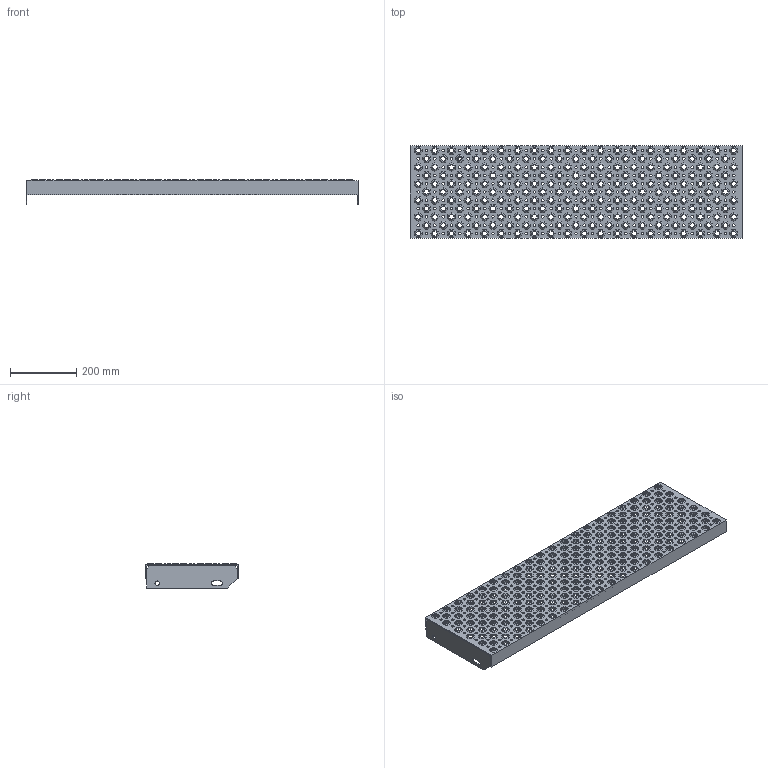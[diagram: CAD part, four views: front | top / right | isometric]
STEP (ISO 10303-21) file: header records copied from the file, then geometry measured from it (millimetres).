
FILE_DESCRIPTION(('Open CASCADE Model'),'2;1');
FILE_NAME('Open CASCADE Shape Model','2020-06-30T13:02:46',('Author'),( 'Open CASCADE'),'Open CASCADE STEP processor 7.2','Open CASCADE 7.2' ,'Unknown');
FILE_SCHEMA(('AUTOMOTIVE_DESIGN { 1 0 10303 214 1 1 1 1 }'));
Length unit declared in the file: millimetre
Products named in the file (9043): Open CASCADE STEP translator 7.2 1; Open CASCADE STEP translator 7.2 2; Open CASCADE STEP translator 7.2 3; Open CASCADE STEP translator 7.2 3.1; Open CASCADE STEP translator 7.2 3.2; Open CASCADE STEP translator 7.2 3.3; Open CASCADE STEP translator 7.2 3.4; Open CASCADE STEP translator 7.2 3.5; Open CASCADE STEP translator 7.2 3.6; Open CASCADE STEP translator 7.2 3.7; Open CASCADE STEP translator 7.2 3.8; Open CASCADE STEP translator 7.2 3.9; Open CASCADE STEP translator 7.2 3.10; Open CASCADE STEP translator 7.2 3.11; Open CASCADE STEP translator 7.2 3.12; Open CASCADE STEP translator 7.2 3.13; Open CASCADE STEP translator 7.2 3.14; Open CASCADE STEP translator 7.2 3.15; Open CASCADE STEP translator 7.2 3.16; Open CASCADE STEP translator 7.2 3.17; Open CASCADE STEP translator 7.2 3.18; Open CASCADE STEP translator 7.2 3.19; Open CASCADE STEP translator 7.2 3.20; Open CASCADE STEP translator 7.2 3.21; Open CASCADE STEP translator 7.2 3.22; Open CASCADE STEP translator 7.2 3.23; Open CASCADE STEP translator 7.2 3.24; Open CASCADE STEP translator 7.2 3.25; Open CASCADE STEP translator 7.2 3.26; Open CASCADE STEP translator 7.2 3.27; Open CASCADE STEP translator 7.2 3.28; Open CASCADE STEP translator 7.2 3.29; Open CASCADE STEP translator 7.2 3.30; Open CASCADE STEP translator 7.2 3.31; Open CASCADE STEP translator 7.2 3.32; Open CASCADE STEP translator 7.2 3.33; Open CASCADE STEP translator 7.2 3.34; Open CASCADE STEP translator 7.2 3.35; Open CASCADE STEP translator 7.2 3.36; Open CASCADE STEP translator 7.2 3.37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
Assembly tree (9040 placements, depth 2):
  Open CASCADE STEP translator 7.2 1
  Open CASCADE STEP translator 7.2 2
  Open CASCADE STEP translator 7.2 3
    Open CASCADE STEP translator 7.2 3.1
    Open CASCADE STEP translator 7.2 3.2
    Open CASCADE STEP translator 7.2 3.3
    Open CASCADE STEP translator 7.2 3.4
    Open CASCADE STEP translator 7.2 3.5
    Open CASCADE STEP translator 7.2 3.6
    Open CASCADE STEP translator 7.2 3.7
    Open CASCADE STEP translator 7.2 3.8
    Open CASCADE STEP translator 7.2 3.9
    Open CASCADE STEP translator 7.2 3.10
    Open CASCADE STEP translator 7.2 3.11
    Open CASCADE STEP translator 7.2 3.12
    Open CASCADE STEP translator 7.2 3.13
    Open CASCADE STEP translator 7.2 3.14
    Open CASCADE STEP translator 7.2 3.15
    Open CASCADE STEP translator 7.2 3.16
    Open CASCADE STEP translator 7.2 3.17
    Open CASCADE STEP translator 7.2 3.18
    Open CASCADE STEP translator 7.2 3.19
    Open CASCADE STEP translator 7.2 3.20
    Open CASCADE STEP translator 7.2 3.21
    Open CASCADE STEP translator 7.2 3.22
    Open CASCADE STEP translator 7.2 3.23
    Open CASCADE STEP translator 7.2 3.24
    Open CASCADE STEP translator 7.2 3.25
    Open CASCADE STEP translator 7.2 3.26
    Open CASCADE STEP translator 7.2 3.27
    Open CASCADE STEP translator 7.2 3.28
    Open CASCADE STEP translator 7.2 3.29
    Open CASCADE STEP translator 7.2 3.30
    Open CASCADE STEP translator 7.2 3.31
    Open CASCADE STEP translator 7.2 3.32
    Open CASCADE STEP translator 7.2 3.33
    Open CASCADE STEP translator 7.2 3.34
    Open CASCADE STEP translator 7.2 3.35
    Open CASCADE STEP translator 7.2 3.36
    Open CASCADE STEP translator 7.2 3.37
    Open CASCADE STEP translator 7.2 3.38
    Open CASCADE STEP translator 7.2 3.39
    Open CASCADE STEP translator 7.2 3.40
    Open CASCADE STEP translator 7.2 3.41
    Open CASCADE STEP translator 7.2 3.42
    Open CASCADE STEP translator 7.2 3.43
    Open CASCADE STEP translator 7.2 3.44
    Open CASCADE STEP translator 7.2 3.45
    Open CASCADE STEP translator 7.2 3.46
    Open CASCADE STEP translator 7.2 3.47
    Open CASCADE STEP translator 7.2 3.48
    Open CASCADE STEP translator 7.2 3.49
    Open CASCADE STEP translator 7.2 3.50
    Open CASCADE STEP translator 7.2 3.51
    Open CASCADE STEP translator 7.2 3.52
    Open CASCADE STEP translator 7.2 3.53
    Open CASCADE STEP translator 7.2 3.54
    Open CASCADE STEP translator 7.2 3.55
    Open CASCADE STEP translator 7.2 3.56
    Open CASCADE STEP translator 7.2 3.57
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Bounding box: 1000 x 280 x 73 mm (x, y, z)
Volume: 103695.2 mm3; surface area: 928510.8 mm2
Topology: 2 solids, 9042 shells, 9068 faces, 51720 edges, 51696 vertices
Faces by surface type: plane 9062, cylinder 6
Full cylindrical faces by diameter (mm): 13 x2
Entity records: 1032232 total; most frequent: CARTESIAN_POINT 173365, DIRECTION 139714, LINE 103464, VECTOR 103464, ORIENTED_EDGE 51792, PCURVE 51792, DEFINITIONAL_REPRESENTATION 51792, EDGE_CURVE 51720
